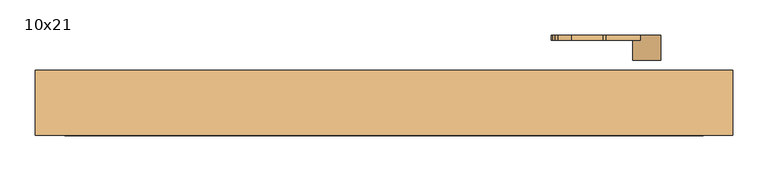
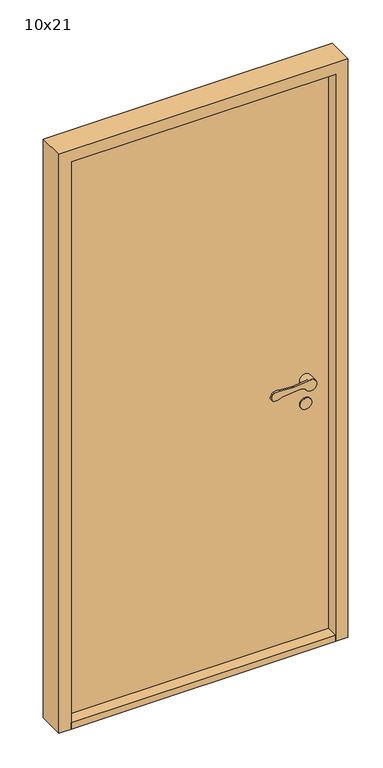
"""IFC4 building model written with IfcOpenShell, lengths in millimetres: door geometry, Innerdør Slett (Diplomat) : 10x21."""

from ifc_helpers import new_model, si_unit, point, frame, frame_2d, origin, origin_with_axes, place, context, project, spatial, polyline, circle_curve, trimmed, segment, composite_curve, outline, extrude, source, transform, mapped, element, save
from ifc_brep_helpers import plane_surface, cylinder_surface, revolved_surface, advanced_brep


def door_10x21_55d714b2(model_context):
    return source(origin(), model_context, "Body", "SolidModel", [
        advanced_brep(
        [(393.9611305, -35.0, 949.1175955), (408.3841161, -35.0, 942.6204086), (446.379633, -35.0, 951.3474568), (417.2687793, -35.0, 969.1517356), (368.6891233, -35.0, 964.26032), (363.6202158, -35.0, 964.1804415), (318.8963175, -35.0, 967.2639242), (300.3175669, -35.0, 964.8810513), (295.505009, -35.0, 959.9624074), (291.8691983, -35.0, 951.8913379), (296.721536, -35.0, 938.7393398), (326.0476109, -35.0, 943.6260011), (388.8520664, -35.0, 949.9496913), (368.6891233, -27.8915284, 964.26032), (417.2687793, -27.8915284, 969.1517356), (406.379633, -27.8915284, 951.3474568), (408.3841161, -27.8915284, 942.6204086), (393.9611305, -27.8915284, 949.1175955), (388.8520664, -27.8915284, 949.9496913), (326.0476109, -27.8915284, 943.6260011), (296.721536, -27.8915284, 938.7393398), (291.8691983, -27.8915284, 951.8913379), (295.505009, -27.8915284, 959.9624074), (300.3175669, -27.8915284, 964.8810513), (318.8963175, -27.8915284, 967.2639242), (363.6202158, -27.8915284, 964.1804415), (446.379633, 0.0, 951.3474568), (406.379633, 0.0, 951.3474568)],
        [
            (0, 1),
            (1, 2, circle_curve(frame((426.379633, -35.0, 951.3474568), z_axis=(0.0, -1.0, 0.0), x_axis=(-1.0, 0.0, 0.0)), 20.0)),
            (2, 3, circle_curve(frame((426.379633, -35.0, 951.3474568), z_axis=(0.0, -1.0, 0.0), x_axis=(-1.0, 0.0, 0.0)), 20.0)),
            (3, 4),
            (4, 5, circle_curve(frame((365.683663, -35.0, 994.1093938), z_axis=(0.0, 1.0, 0.0), x_axis=(-0.9949691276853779, 0.0, -0.10018200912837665)), 30.0)),
            (5, 6),
            (6, 7, circle_curve(frame((313.2326797, -35.0, 937.8033877), z_axis=(0.0, -1.0, 0.0), x_axis=(-0.9949691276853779, 0.0, -0.10018200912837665)), 30.0)),
            (7, 8, circle_curve(frame((304.6226045, -35.0, 955.8551634), z_axis=(0.0, -1.0, 0.0), x_axis=(-0.9949691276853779, 0.0, -0.10018200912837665)), 10.0)),
            (8, 9),
            (9, 10, circle_curve(frame((300.9867937, -35.0, 947.7840939), z_axis=(0.0, -1.0, 0.0), x_axis=(-0.9949691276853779, 0.0, -0.10018200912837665)), 10.0)),
            (10, 11, circle_curve(frame((307.8569644, -35.0, 962.352734), z_axis=(0.0, -1.0, 0.0), x_axis=(-0.9949691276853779, 0.0, -0.10018200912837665)), 26.1072815)),
            (11, 12),
            (12, 0, circle_curve(frame((389.8538865, -35.0, 940.0), z_axis=(0.0, 1.0, 0.0), x_axis=(-0.9949691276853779, 0.0, -0.10018200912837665)), 10.0)),
            (13, 14),
            (14, 15, circle_curve(frame((426.379633, -27.8915284, 951.3474568), z_axis=(0.0, -1.0, 0.0), x_axis=(-1.0, 0.0, 0.0)), 20.0)),
            (15, 16, circle_curve(frame((426.379633, -27.8915284, 951.3474568), z_axis=(0.0, -1.0, 0.0), x_axis=(-1.0, 0.0, 0.0)), 20.0)),
            (16, 17),
            (17, 18, circle_curve(frame((389.8538865, -27.8915284, 940.0), z_axis=(0.0, -1.0, 0.0), x_axis=(-0.9949691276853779, 0.0, -0.10018200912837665)), 10.0)),
            (18, 19),
            (19, 20, circle_curve(frame((307.8569644, -27.8915284, 962.352734), z_axis=(0.0, 1.0, 0.0), x_axis=(-0.9949691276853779, 0.0, -0.10018200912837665)), 26.1072815)),
            (20, 21, circle_curve(frame((300.9867937, -27.8915284, 947.7840939), z_axis=(0.0, 1.0, 0.0), x_axis=(-0.9949691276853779, 0.0, -0.10018200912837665)), 10.0)),
            (21, 22),
            (22, 23, circle_curve(frame((304.6226045, -27.8915284, 955.8551634), z_axis=(0.0, 1.0, 0.0), x_axis=(-0.9949691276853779, 0.0, -0.10018200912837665)), 10.0)),
            (23, 24, circle_curve(frame((313.2326797, -27.8915284, 937.8033877), z_axis=(0.0, 1.0, 0.0), x_axis=(-0.9949691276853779, 0.0, -0.10018200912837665)), 30.0)),
            (24, 25),
            (25, 13, circle_curve(frame((365.683663, -27.8915284, 994.1093938), z_axis=(0.0, -1.0, 0.0), x_axis=(-0.9949691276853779, 0.0, -0.10018200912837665)), 30.0)),
            (3, 14),
            (13, 4),
            (16, 1),
            (0, 17),
            (12, 18),
            (11, 19),
            (10, 20),
            (9, 21),
            (8, 22),
            (7, 23),
            (6, 24),
            (5, 25),
            (26, 27, circle_curve(frame((426.379633, 0.0, 951.3474568), z_axis=(0.0, 1.0, 0.0), x_axis=(-1.0, 0.0, 0.0)), 20.0)),
            (27, 26, circle_curve(frame((426.379633, 0.0, 951.3474568), z_axis=(0.0, 1.0, 0.0), x_axis=(-1.0, 0.0, 0.0)), 20.0)),
            (26, 2),
            (15, 27),
        ],
        [
            plane_surface(frame((417.6960588, -35.0, 969.1947577), z_axis=(0.0, -1.0000000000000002, 0.0), x_axis=(0.9949691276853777, 0.0, 0.10018200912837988))),
            plane_surface(frame((417.6960588, -27.8915284, 969.1947577), z_axis=(0.0, 1.0000000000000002, 0.0), x_axis=(-0.9949691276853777, 0.0, -0.10018200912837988))),
            plane_surface(frame((368.6891233, -35.0, 964.26032), z_axis=(-0.10018200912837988, 0.0, 0.9949691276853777), x_axis=(0.0, 1.0, 0.0))),
            plane_surface(frame((426.9687366, -35.0, 934.2485115), z_axis=(-0.41072439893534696, 0.0, -0.91175954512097), x_axis=(0.0, 1.0, 0.0))),
            revolved_surface(polyline([(379.9041952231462, -27.8915284, 938.9981799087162), (379.9041952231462, -35.0, 938.9981799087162)]), (389.8538865, -27.8915284, 940.0), (0.0, 1.0, 0.0)),
            plane_surface(frame((388.8520664, -35.0, 949.9496913), z_axis=(0.10018200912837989, 0.0, -0.9949691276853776), x_axis=(0.0, 1.0, 0.0))),
            cylinder_surface(frame((307.8569644, -27.8915284, 962.352734), z_axis=(0.0, -1.0, 0.0), x_axis=(-0.9949691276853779, 0.0, -0.10018200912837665)), 26.1072815),
            cylinder_surface(frame((300.9867937, -27.8915284, 947.7840939), z_axis=(0.0, -1.0, 0.0), x_axis=(-0.9949691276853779, 0.0, -0.10018200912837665)), 10.0),
            plane_surface(frame((291.8691983, -35.0, 951.8913379), z_axis=(-0.9117595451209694, 0.0, 0.41072439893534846), x_axis=(0.0, 1.0, 0.0))),
            cylinder_surface(frame((304.6226045, -27.8915284, 955.8551634), z_axis=(0.0, -1.0, 0.0), x_axis=(-0.9949691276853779, 0.0, -0.10018200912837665)), 10.0),
            cylinder_surface(frame((313.2326797, -27.8915284, 937.8033877), z_axis=(0.0, -1.0, 0.0), x_axis=(-0.9949691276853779, 0.0, -0.10018200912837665)), 30.0),
            plane_surface(frame((318.8963175, -35.0, 967.2639242), z_axis=(0.06878157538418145, 0.0, 0.9976317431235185), x_axis=(0.0, 1.0, 0.0))),
            revolved_surface(polyline([(335.8345891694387, -27.8915284, 991.1039335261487), (335.8345891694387, -35.0, 991.1039335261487)]), (365.683663, -27.8915284, 994.1093938), (0.0, 1.0, 0.0)),
            plane_surface(frame((406.379633, 0.0, 951.3474568), z_axis=(0.0, 1.0, 0.0), x_axis=(0.0, 0.0, -1.0))),
            cylinder_surface(frame((426.379633, 0.0, 951.3474568), z_axis=(0.0, -1.0, 0.0), x_axis=(-1.0, 0.0, 0.0)), 20.0),
        ],
        [
            (0, [[1, 2, 3, 4, 5, 6, 7, 8, 9, 10, 11, 12, 13]]),
            (1, [[14, 15, 16, 17, 18, 19, 20, 21, 22, 23, 24, 25, 26]]),
            (2, [[-4, 27, -14, 28]]),
            (3, [[-17, 29, -1, 30]]),
            (4, [[31, -18, -30, -13]]),
            (5, [[32, -19, -31, -12]]),
            (6, [[33, -20, -32, -11]]),
            (7, [[34, -21, -33, -10]]),
            (8, [[35, -22, -34, -9]]),
            (9, [[36, -23, -35, -8]]),
            (10, [[37, -24, -36, -7]]),
            (11, [[38, -25, -37, -6]]),
            (12, [[-28, -26, -38, -5]]),
            (13, [[39, 40]]),
            (14, [[41, -2, -29, -16, 42, -39]]),
            (14, [[-42, -15, -27, -3, -41, -40]]),
        ],
    ),
        extrude(outline(composite_curve([segment(trimmed(circle_curve(frame_2d((866.3474568, 426.379633)), 20.0), [point((866.3474568, 446.379633))], [point((866.3474568, 406.379633))], False, "CARTESIAN"), True, "CONTINUOUS"), segment(trimmed(circle_curve(frame_2d((866.3474568, 426.379633)), 20.0), [point((866.3474568, 406.379633))], [point((866.3474568, 446.379633))], False, "CARTESIAN"), True, "CONTINUOUS")], self_intersect=False)), frame((0.0, -5.0, 0.0), z_axis=(0.0, 1.0, 0.0), x_axis=(0.0, 0.0, 1.0)), (0.0, 0.0, 1.0), 5.0),
        advanced_brep(
        [(393.9611305, 100.0, 949.1175955), (388.8520664, 100.0, 949.9496913), (326.0476109, 100.0, 943.6260011), (296.721536, 100.0, 938.7393398), (291.8691983, 100.0, 951.8913379), (295.505009, 100.0, 959.9624074), (300.3175669, 100.0, 964.8810513), (318.8963175, 100.0, 967.2639242), (363.6202158, 100.0, 964.1804415), (368.6891233, 100.0, 964.26032), (417.2687793, 100.0, 969.1517356), (446.379633, 100.0, 951.3474568), (408.3841161, 100.0, 942.6204086), (368.6891233, 92.8915284, 964.26032), (363.6202158, 92.8915284, 964.1804415), (318.8963175, 92.8915284, 967.2639242), (300.3175669, 92.8915284, 964.8810513), (295.505009, 92.8915284, 959.9624074), (291.8691983, 92.8915284, 951.8913379), (296.721536, 92.8915284, 938.7393398), (326.0476109, 92.8915284, 943.6260011), (388.8520664, 92.8915284, 949.9496913), (393.9611305, 92.8915284, 949.1175955), (408.3841161, 92.8915284, 942.6204086), (406.379633, 92.8915284, 951.3474568), (417.2687793, 92.8915284, 969.1517356), (446.379633, 65.0, 951.3474568), (406.379633, 65.0, 951.3474568)],
        [
            (0, 1, circle_curve(frame((389.8538865, 100.0, 940.0), z_axis=(0.0, -1.0, 0.0), x_axis=(-0.9949691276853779, 0.0, -0.10018200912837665)), 10.0)),
            (1, 2),
            (2, 3, circle_curve(frame((307.8569644, 100.0, 962.352734), z_axis=(0.0, 1.0, 0.0), x_axis=(-0.9949691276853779, 0.0, -0.10018200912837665)), 26.1072815)),
            (3, 4, circle_curve(frame((300.9867937, 100.0, 947.7840939), z_axis=(0.0, 1.0, 0.0), x_axis=(-0.9949691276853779, 0.0, -0.10018200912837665)), 10.0)),
            (4, 5),
            (5, 6, circle_curve(frame((304.6226045, 100.0, 955.8551634), z_axis=(0.0, 1.0, 0.0), x_axis=(-0.9949691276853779, 0.0, -0.10018200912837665)), 10.0)),
            (6, 7, circle_curve(frame((313.2326797, 100.0, 937.8033877), z_axis=(0.0, 1.0, 0.0), x_axis=(-0.9949691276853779, 0.0, -0.10018200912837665)), 30.0)),
            (7, 8),
            (8, 9, circle_curve(frame((365.683663, 100.0, 994.1093938), z_axis=(0.0, -1.0, 0.0), x_axis=(-0.9949691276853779, 0.0, -0.10018200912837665)), 30.0)),
            (9, 10),
            (10, 11, circle_curve(frame((426.379633, 100.0, 951.3474568), z_axis=(0.0, 1.0, 0.0), x_axis=(-1.0, 0.0, 0.0)), 20.0)),
            (11, 12, circle_curve(frame((426.379633, 100.0, 951.3474568), z_axis=(0.0, 1.0, 0.0), x_axis=(-1.0, 0.0, 0.0)), 20.0)),
            (12, 0),
            (13, 14, circle_curve(frame((365.683663, 92.8915284, 994.1093938), z_axis=(0.0, 1.0, 0.0), x_axis=(-0.9949691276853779, 0.0, -0.10018200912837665)), 30.0)),
            (14, 15),
            (15, 16, circle_curve(frame((313.2326797, 92.8915284, 937.8033877), z_axis=(0.0, -1.0, 0.0), x_axis=(-0.9949691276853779, 0.0, -0.10018200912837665)), 30.0)),
            (16, 17, circle_curve(frame((304.6226045, 92.8915284, 955.8551634), z_axis=(0.0, -1.0, 0.0), x_axis=(-0.9949691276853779, 0.0, -0.10018200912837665)), 10.0)),
            (17, 18),
            (18, 19, circle_curve(frame((300.9867937, 92.8915284, 947.7840939), z_axis=(0.0, -1.0, 0.0), x_axis=(-0.9949691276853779, 0.0, -0.10018200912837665)), 10.0)),
            (19, 20, circle_curve(frame((307.8569644, 92.8915284, 962.352734), z_axis=(0.0, -1.0, 0.0), x_axis=(-0.9949691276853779, 0.0, -0.10018200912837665)), 26.1072815)),
            (20, 21),
            (21, 22, circle_curve(frame((389.8538865, 92.8915284, 940.0), z_axis=(0.0, 1.0, 0.0), x_axis=(-0.9949691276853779, 0.0, -0.10018200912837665)), 10.0)),
            (22, 23),
            (23, 24, circle_curve(frame((426.379633, 92.8915284, 951.3474568), z_axis=(0.0, 1.0, 0.0), x_axis=(-1.0, 0.0, 0.0)), 20.0)),
            (24, 25, circle_curve(frame((426.379633, 92.8915284, 951.3474568), z_axis=(0.0, 1.0, 0.0), x_axis=(-1.0, 0.0, 0.0)), 20.0)),
            (25, 13),
            (9, 13),
            (25, 10),
            (22, 0),
            (12, 23),
            (21, 1),
            (20, 2),
            (19, 3),
            (18, 4),
            (17, 5),
            (16, 6),
            (15, 7),
            (14, 8),
            (26, 27, circle_curve(frame((426.379633, 65.0, 951.3474568), z_axis=(0.0, -1.0, 0.0), x_axis=(-1.0, 0.0, 0.0)), 20.0)),
            (27, 26, circle_curve(frame((426.379633, 65.0, 951.3474568), z_axis=(0.0, -1.0, 0.0), x_axis=(-1.0, 0.0, 0.0)), 20.0)),
            (27, 24),
            (11, 26),
        ],
        [
            plane_surface(frame((417.6960588, 100.0, 969.1947577), z_axis=(0.0, 1.0000000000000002, 0.0), x_axis=(0.9949691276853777, 0.0, 0.10018200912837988))),
            plane_surface(frame((417.6960588, 92.8915284, 969.1947577), z_axis=(0.0, -1.0000000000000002, 0.0), x_axis=(-0.9949691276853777, 0.0, -0.10018200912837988))),
            plane_surface(frame((368.6891233, 100.0, 964.26032), z_axis=(-0.10018200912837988, 0.0, 0.9949691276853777), x_axis=(0.0, -1.0, 0.0))),
            plane_surface(frame((426.9687366, 100.0, 934.2485115), z_axis=(-0.41072439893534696, 0.0, -0.91175954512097), x_axis=(0.0, -1.0, 0.0))),
            revolved_surface(polyline([(379.9041952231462, 92.8915284, 938.9981799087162), (379.9041952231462, 100.0, 938.9981799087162)]), (389.8538865, 92.8915284, 940.0), (0.0, -1.0, 0.0)),
            plane_surface(frame((388.8520664, 100.0, 949.9496913), z_axis=(0.10018200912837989, 0.0, -0.9949691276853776), x_axis=(0.0, -1.0, 0.0))),
            cylinder_surface(frame((307.8569644, 92.8915284, 962.352734), z_axis=(0.0, 1.0, 0.0), x_axis=(-0.9949691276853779, 0.0, -0.10018200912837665)), 26.1072815),
            cylinder_surface(frame((300.9867937, 92.8915284, 947.7840939), z_axis=(0.0, 1.0, 0.0), x_axis=(-0.9949691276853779, 0.0, -0.10018200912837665)), 10.0),
            plane_surface(frame((291.8691983, 100.0, 951.8913379), z_axis=(-0.9117595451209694, 0.0, 0.41072439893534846), x_axis=(0.0, -1.0, 0.0))),
            cylinder_surface(frame((304.6226045, 92.8915284, 955.8551634), z_axis=(0.0, 1.0, 0.0), x_axis=(-0.9949691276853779, 0.0, -0.10018200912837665)), 10.0),
            cylinder_surface(frame((313.2326797, 92.8915284, 937.8033877), z_axis=(0.0, 1.0, 0.0), x_axis=(-0.9949691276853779, 0.0, -0.10018200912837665)), 30.0),
            plane_surface(frame((318.8963175, 100.0, 967.2639242), z_axis=(0.06878157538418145, 0.0, 0.9976317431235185), x_axis=(0.0, -1.0, 0.0))),
            revolved_surface(polyline([(335.8345891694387, 92.8915284, 991.1039335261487), (335.8345891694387, 100.0, 991.1039335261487)]), (365.683663, 92.8915284, 994.1093938), (0.0, -1.0, 0.0)),
            plane_surface(frame((406.379633, 65.0, 951.3474568), z_axis=(0.0, -1.0, 0.0), x_axis=(0.0, 0.0, -1.0))),
            cylinder_surface(frame((426.379633, 65.0, 951.3474568), z_axis=(0.0, 1.0, 0.0), x_axis=(-1.0, 0.0, 0.0)), 20.0),
        ],
        [
            (0, [[1, 2, 3, 4, 5, 6, 7, 8, 9, 10, 11, 12, 13]]),
            (1, [[14, 15, 16, 17, 18, 19, 20, 21, 22, 23, 24, 25, 26]]),
            (2, [[27, -26, 28, -10]]),
            (3, [[29, -13, 30, -23]]),
            (4, [[-1, -29, -22, 31]]),
            (5, [[-2, -31, -21, 32]]),
            (6, [[-3, -32, -20, 33]]),
            (7, [[-4, -33, -19, 34]]),
            (8, [[-5, -34, -18, 35]]),
            (9, [[-6, -35, -17, 36]]),
            (10, [[-7, -36, -16, 37]]),
            (11, [[-8, -37, -15, 38]]),
            (12, [[-9, -38, -14, -27]]),
            (13, [[39, 40]]),
            (14, [[-40, 41, -24, -30, -12, 42]]),
            (14, [[-39, -42, -11, -28, -25, -41]]),
        ],
    ),
        extrude(outline(composite_curve([segment(trimmed(circle_curve(frame_2d((866.3474568, 426.379633)), 20.0), [point((866.3474568, 446.379633))], [point((866.3474568, 406.379633))], False, "CARTESIAN"), True, "CONTINUOUS"), segment(trimmed(circle_curve(frame_2d((866.3474568, 426.379633)), 20.0), [point((866.3474568, 406.379633))], [point((866.3474568, 446.379633))], False, "CARTESIAN"), True, "CONTINUOUS")], self_intersect=False)), frame((0.0, 65.0, 0.0), z_axis=(0.0, 1.0, 0.0), x_axis=(0.0, 0.0, 1.0)), (0.0, 0.0, 1.0), 5.0),
        extrude(outline(polyline([(506.379633, -42.0), (-399.620367, -42.0), (-399.620367, 50.0), (506.379633, 50.0), (506.379633, -42.0)])), origin_with_axes(), (0.0, 0.0, 1.0), 22.0),
        extrude(outline(polyline([(506.379633, 0.0), (-399.620367, 0.0), (-399.620367, 50.0), (506.379633, 50.0), (506.379633, 0.0)])), frame((0.0, 0.0, 22.0), z_axis=(0.0, 0.0, 1.0), x_axis=(1.0, 0.0, 0.0)), (0.0, 0.0, 1.0), 2031.0),
        extrude(outline(polyline([(0.0, -441.620367), (0.0, -399.620367), (2053.0, -399.620367), (2053.0, 506.379633), (0.0, 506.379633), (0.0, 548.379633), (2095.0, 548.379633), (2095.0, -441.620367), (0.0, -441.620367)])), frame((0.0, -42.0, 0.0), z_axis=(0.0, 1.0, 0.0), x_axis=(0.0, 0.0, 1.0)), (0.0, 0.0, 1.0), 92.0),
    ])


if __name__ == "__main__":
    model = new_model("IFC4")
    model_context = context("Model", 3, world=origin())
    ifc_project = project(units=[si_unit("LENGTHUNIT", "METRE", prefix="MILLI")], contexts=[model_context])
    site = spatial("IfcSite", under=ifc_project)
    building = spatial("IfcBuilding", under=site)
    placement = place(None, origin())
    door_10x21_shape = door_10x21_55d714b2(model_context)
    element("IfcDoor", 1, ObjectType="Innerdør Slett (Diplomat) : 10x21", at=placement, inside=building, context=model_context, shape_type="MappedRepresentation", body=[
        mapped(door_10x21_shape, transform((0.0, 0.0, 0.0), x_axis=(1.0, 0.0, 0.0), y_axis=(0.0, 1.0, 0.0), z_axis=(0.0, 0.0, 1.0))),
    ])
    save(model, "model.ifc")
